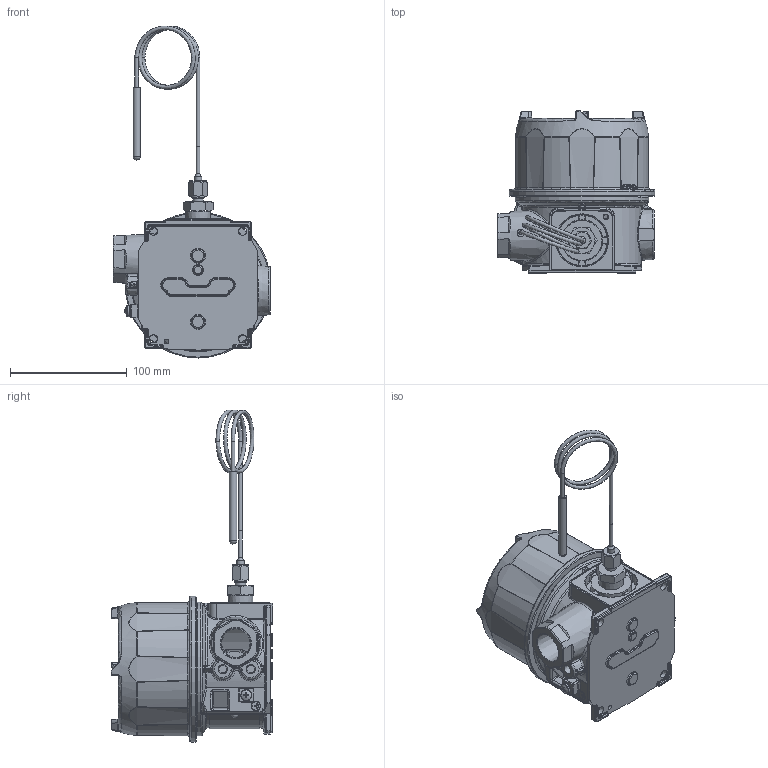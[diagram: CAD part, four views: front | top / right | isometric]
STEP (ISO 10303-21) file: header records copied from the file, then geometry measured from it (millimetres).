
FILE_DESCRIPTION (( 'STEP AP214' ), '1' );
FILE_NAME ('1X-TR1_TH1_TC1_ALLMODELS_V4.STEP', '2025-03-13T16:53:45', ( '' ), ( '' ), 'SwSTEP 2.0', 'SolidWorks 2023', '' );
FILE_SCHEMA (( 'AUTOMOTIVE_DESIGN' ));
Length unit declared in the file: inch
Products named in the file (1): 1X-TR1_TH1_TC1_ALLMODELS_V4
Bounding box: 135 x 138.46 x 283.89 mm (x, y, z)
Surface area: 106207.1 mm2 (no closed solid volume)
Topology: 0 solids, 27 shells, 1492 faces, 4791 edges, 3072 vertices
Faces by surface type: plane 595, bspline 400, cylinder 185, torus 170, cone 111, sphere 31
Full cylindrical faces by diameter (mm): 3.175 x3, 3.3 x1, 6.35 x2, 9.017 x1, 9.5 x1, 11.079 x1, 13.716 x1, 70.104 x1, 114.046 x1, 124.714 x1
Entity records: 75070 total; most frequent: CARTESIAN_POINT 37801, ORIENTED_EDGE 7676, DIRECTION 6646, EDGE_CURVE 4647, VERTEX_POINT 3043, VECTOR 2436, LINE 2436, AXIS2_PLACEMENT_3D 2105
